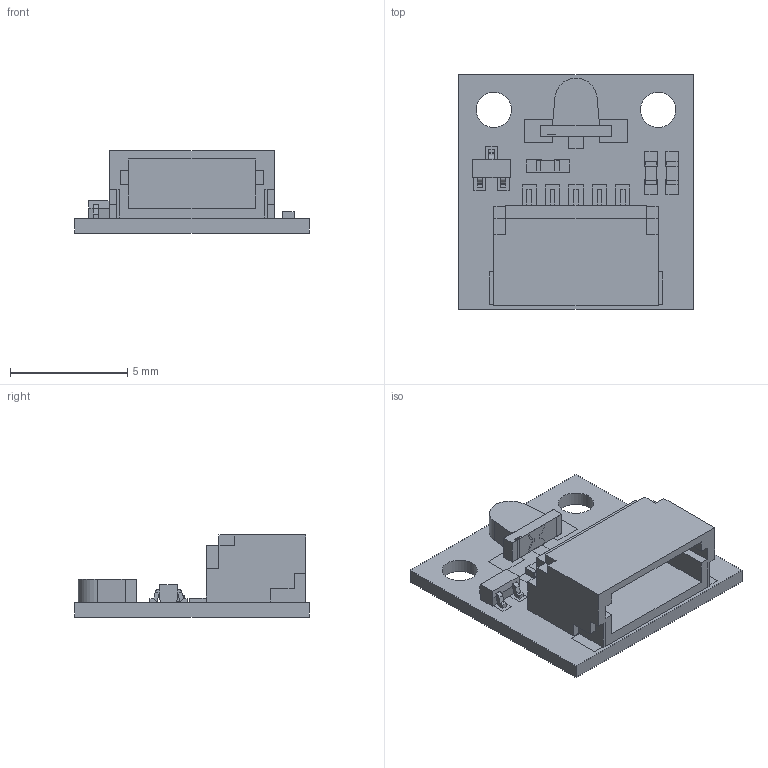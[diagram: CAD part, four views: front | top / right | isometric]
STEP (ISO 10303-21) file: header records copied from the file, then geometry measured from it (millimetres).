
FILE_DESCRIPTION(('FreeCAD Model'),'2;1');
FILE_NAME('/home/devy/MEGA/TinyCircuits/Assets/BoardsANDBoardModels_2/Wirelings/TinyCircuits-Wireling-IR-Emitter-AST1026/cad/Wireling_IR_EMITTER_AST1026_REV2-STEP.step','2020-07-30T12:59:07',('Author'),(''), 'Open CASCADE STEP processor 7.4','FreeCAD','Unknown');
FILE_SCHEMA(('AUTOMOTIVE_DESIGN { 1 0 10303 214 1 1 1 1 }'));
Products named in the file (1): Wireling_IR_EMITTER_AST1026_REV2-STEP
Bounding box: 10 x 10 x 3.5 mm (x, y, z)
Volume: 224.6 mm3; surface area: 940.9 mm2
Topology: 84 solids, 84 shells, 1280 faces, 3134 edges, 2064 vertices
Faces by surface type: plane 1038, bspline 198, cylinder 38, revolution 6
Full cylindrical faces by diameter (mm): 1.502 x4
Entity records: 99435 total; most frequent: CARTESIAN_POINT 29375, DIRECTION 10442, LINE 7988, VECTOR 7988, ORIENTED_EDGE 6268, PCURVE 6268, DEFINITIONAL_REPRESENTATION 6268, EDGE_CURVE 3134
